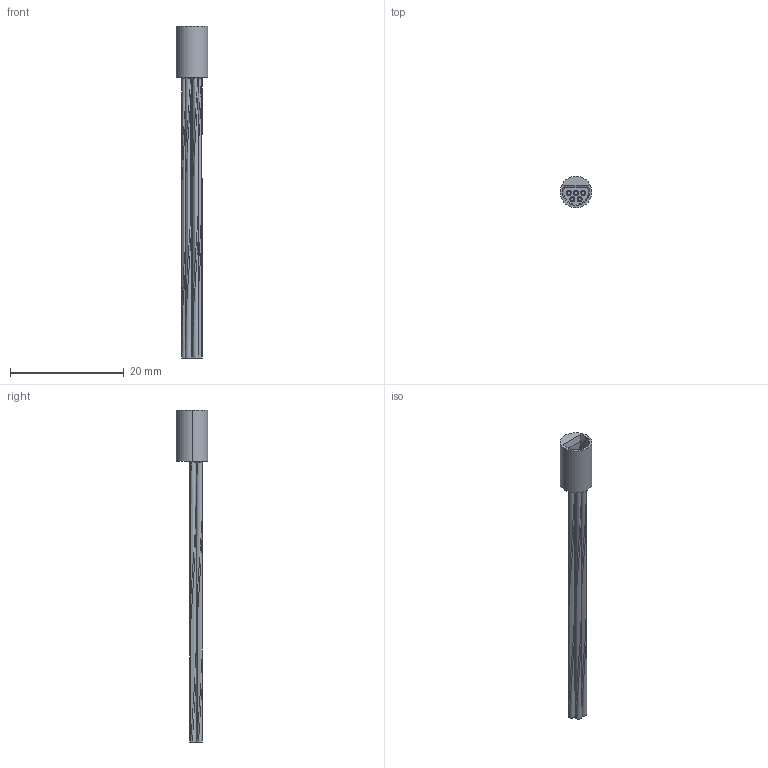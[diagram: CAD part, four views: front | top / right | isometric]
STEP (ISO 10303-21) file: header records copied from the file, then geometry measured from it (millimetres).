
FILE_DESCRIPTION (( 'STEP AP214' ), '1' );
FILE_NAME ('A22003-001 REV F.STEP', '2011-12-22T16:03:55', ( 'IT' ), ( '' ), 'SwSTEP 2.0', 'SolidWorks 2011', '' );
FILE_SCHEMA (( 'AUTOMOTIVE_DESIGN' ));
Length unit declared in the file: inch
Products named in the file (1): A22003-001 REV E
Bounding box: 5.59 x 5.59 x 58.5 mm (x, y, z)
Volume: 399.5 mm3; surface area: 1212.4 mm2
Topology: 1 solids, 1 shells, 151 faces, 328 edges, 206 vertices
Faces by surface type: cylinder 107, plane 30, cone 13, bspline 1
Entity records: 5969 total; most frequent: CARTESIAN_POINT 1586, ORIENTED_EDGE 656, DIRECTION 653, EDGE_CURVE 328, AXIS2_PLACEMENT_3D 276, VERTEX_POINT 206, EDGE_LOOP 178, ADVANCED_FACE 151
